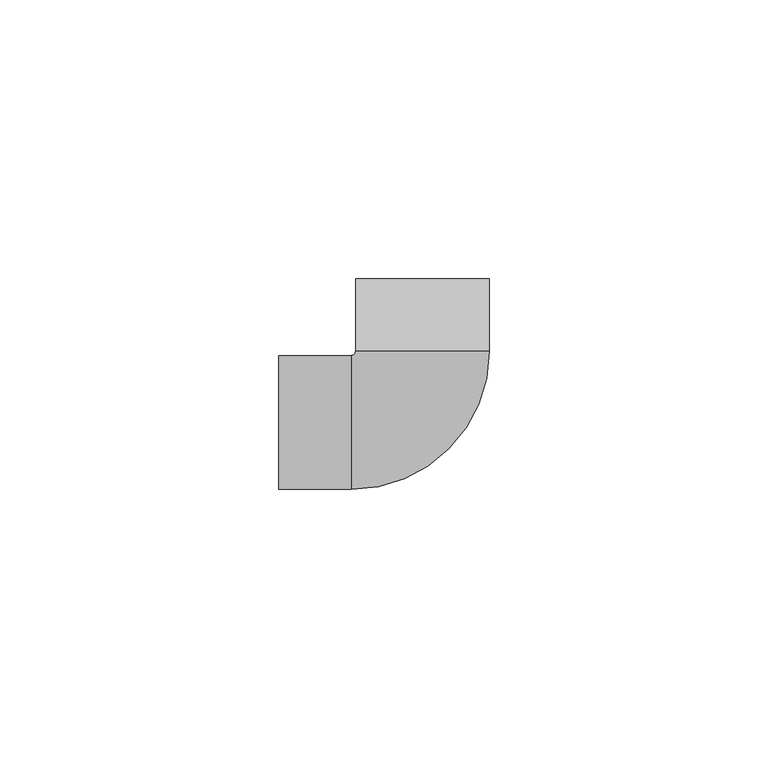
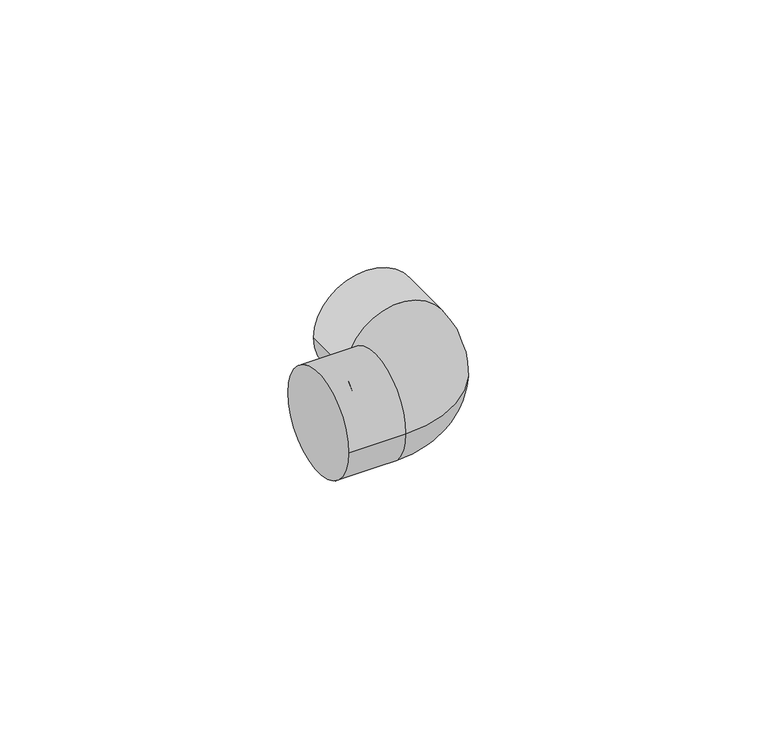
"""IFC4 building model written with IfcOpenShell, lengths in millimetres: pipe fitting geometry, NIRON RED termofusion codo : Estándar."""

from ifc_helpers import new_model, si_unit, point, frame, origin, place, context, project, spatial, circle_curve, ellipse_curve, trimmed, source, transform, mapped, element, save
from ifc_brep_helpers import plane_surface, cylinder_surface, revolved_surface, advanced_brep


def pipe_fitting_450bd5d8(model_context):
    return source(origin(), model_context, "Body", "AdvancedBrep", [
        advanced_brep(
        [(-25.79375, -12.0, 0.0), (-25.79375, 12.0, 0.0), (-12.79375, -12.0, 0.0), (-12.79375, 12.0, 0.0), (-12.0, 12.79375, 0.0), (12.0, 12.79375, 0.0), (12.0, 25.79375, 0.0), (-12.0, 25.79375, 0.0)],
        [
            (0, 1, circle_curve(frame((-25.79375, 0.0, 0.0), z_axis=(-1.0, 0.0, 0.0), x_axis=(0.0, 1.0, 0.0)), 12.0)),
            (1, 0, circle_curve(frame((-25.79375, 0.0, 0.0), z_axis=(-1.0, 0.0, 0.0), x_axis=(0.0, 1.0, 0.0)), 12.0)),
            (0, 2),
            (2, 3, circle_curve(frame((-12.79375, 0.0, 0.0), z_axis=(-1.0, 0.0, 0.0), x_axis=(0.0, 1.0, 0.0)), 12.0)),
            (3, 1),
            (3, 2, circle_curve(frame((-12.79375, 0.0, 0.0), z_axis=(-1.0, 0.0, 0.0), x_axis=(0.0, 1.0, 0.0)), 12.0)),
            (4, 3, circle_curve(frame((-12.79375, 12.79375, 0.0), z_axis=(0.0, 0.0, -1.0), x_axis=(0.0, -1.0, 0.0)), 0.79375)),
            (2, 5, circle_curve(frame((-12.79375, 12.79375, 0.0), z_axis=(0.0, 0.0, 1.0), x_axis=(0.0, -1.0, 0.0)), 24.79375)),
            (5, 4, circle_curve(frame((0.0, 12.79375, 0.0), z_axis=(0.0, -1.0, 0.0), x_axis=(-1.0, 0.0, 0.0)), 12.0)),
            (4, 5, circle_curve(frame((0.0, 12.79375, 0.0), z_axis=(0.0, -1.0, 0.0), x_axis=(-1.0, 0.0, 0.0)), 12.0)),
            (6, 7, circle_curve(frame((0.0, 25.79375, 0.0), z_axis=(0.0, 1.0, 0.0), x_axis=(-1.0, 0.0, 0.0)), 12.0)),
            (7, 6, circle_curve(frame((0.0, 25.79375, 0.0), z_axis=(0.0, 1.0, 0.0), x_axis=(-1.0, 0.0, 0.0)), 12.0)),
            (7, 4),
            (5, 6),
        ],
        [
            plane_surface(frame((-25.79375, 0.0, 0.0), z_axis=(-1.0, 0.0, 0.0), x_axis=(0.0, 0.0, 1.0))),
            cylinder_surface(frame((-25.79375, 0.0, 0.0), z_axis=(-1.0, 0.0, 0.0), x_axis=(0.0, 1.0, 0.0)), 12.0),
            revolved_surface(trimmed(ellipse_curve(frame((-12.79375, 0.0, 0.0), z_axis=(-1.0, 0.0, 0.0), x_axis=(0.0, 1.0, 0.0)), 12.0, 12.0), [point((-12.79375, -12.0, 0.0))], [point((-12.79375, 12.0, 0.0))], True, "CARTESIAN"), (-12.79375, 12.79375, 0.0), (0.0, 0.0, 1.0)),
            revolved_surface(trimmed(ellipse_curve(frame((-12.79375, 0.0, 0.0), z_axis=(-1.0, 0.0, 0.0), x_axis=(0.0, 1.0, 0.0)), 12.0, 12.0), [point((-12.79375, 12.0, 0.0))], [point((-12.79375, -12.0, 0.0))], True, "CARTESIAN"), (-12.79375, 12.79375, 0.0), (0.0, 0.0, 1.0)),
            plane_surface(frame((0.0, 25.79375, 0.0), z_axis=(0.0, 1.0, 0.0), x_axis=(0.0, 0.0, 1.0))),
            cylinder_surface(frame((0.0, 12.79375, 0.0), z_axis=(0.0, -1.0, 0.0), x_axis=(-1.0, 0.0, 0.0)), 12.0),
        ],
        [
            (0, [[1, 2]]),
            (1, [[-1, 3, 4, 5]]),
            (1, [[-2, -5, 6, -3]]),
            (2, [[7, -4, 8, 9]]),
            (3, [[-7, 10, -8, -6]]),
            (4, [[11, 12]]),
            (5, [[-12, 13, -9, 14]]),
            (5, [[-11, -14, -10, -13]]),
        ],
    ),
    ])


if __name__ == "__main__":
    model = new_model("IFC4")
    model_context = context("Model", 3, world=origin())
    ifc_project = project(units=[si_unit("LENGTHUNIT", "METRE", prefix="MILLI")], contexts=[model_context])
    site = spatial("IfcSite", under=ifc_project)
    building = spatial("IfcBuilding", under=site)
    placement = place(None, origin())
    pipe_fitting_shape = pipe_fitting_450bd5d8(model_context)
    element("IfcPipeFitting", 1, ObjectType="NIRON RED termofusion codo : Estándar", at=placement, inside=building, context=model_context, shape_type="MappedRepresentation", body=[
        mapped(pipe_fitting_shape, transform((0.0, 0.0, 0.0), x_axis=(1.0, 0.0, 0.0), y_axis=(0.0, 1.0, 0.0), z_axis=(0.0, 0.0, 1.0))),
    ])
    save(model, "model.ifc")
